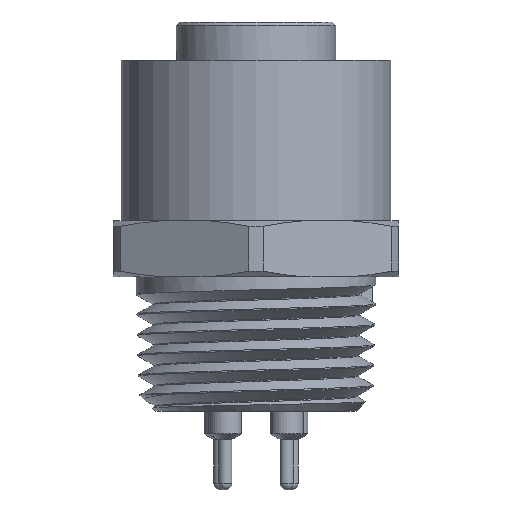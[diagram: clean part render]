
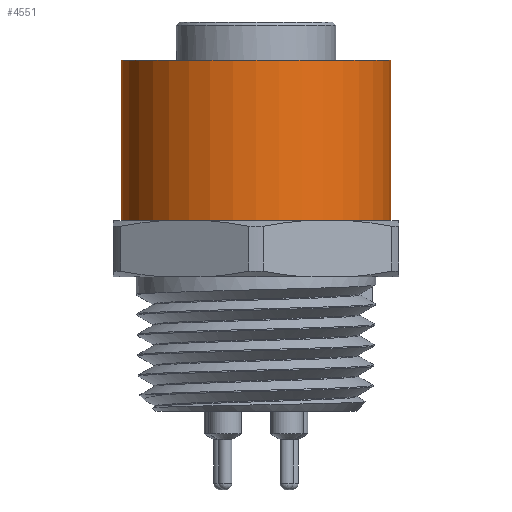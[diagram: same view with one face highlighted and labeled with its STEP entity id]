
A CAD part, front view. The second image highlights one B-rep face of the part: STEP entity #4551.
In plain terms, the highlighted cylindrical face has radius 12 mm (diameter 24 mm), a full revolution.
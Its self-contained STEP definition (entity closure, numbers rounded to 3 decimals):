
#203 = DIRECTION ( 'NONE',  ( 1., 0., 0. ) ) ;
#222 = CIRCLE ( 'NONE', #3931, 12. ) ;
#223 = VERTEX_POINT ( 'NONE', #582 ) ;
#479 = DIRECTION ( 'NONE',  ( 1., 0., 0. ) ) ;
#497 = AXIS2_PLACEMENT_3D ( 'NONE', #3894, #5729, #203 ) ;
#508 = CARTESIAN_POINT ( 'NONE',  ( 12., 0., -3.4 ) ) ;
#582 = CARTESIAN_POINT ( 'NONE',  ( 12., 0., -17.7 ) ) ;
#943 = CARTESIAN_POINT ( 'NONE',  ( 0., 0., -17.7 ) ) ;
#1418 = EDGE_LOOP ( 'NONE', ( #5931 ) ) ;
#2041 = FACE_OUTER_BOUND ( 'NONE', #4948, .T. ) ;
#2090 = AXIS2_PLACEMENT_3D ( 'NONE', #4587, #3693, #479 ) ;
#2564 = CIRCLE ( 'NONE', #497, 12. ) ;
#2858 = ORIENTED_EDGE ( 'NONE', *, *, #3364, .F. ) ;
#3057 = VERTEX_POINT ( 'NONE', #508 ) ;
#3364 = EDGE_CURVE ( 'NONE', #3057, #3057, #2564, .T. ) ;
#3693 = DIRECTION ( 'NONE',  ( 0., 0., 1. ) ) ;
#3837 = CYLINDRICAL_SURFACE ( 'NONE', #2090, 12. ) ;
#3894 = CARTESIAN_POINT ( 'NONE',  ( 0., 0., -3.4 ) ) ;
#3931 = AXIS2_PLACEMENT_3D ( 'NONE', #943, #5061, #5948 ) ;
#4230 = EDGE_CURVE ( 'NONE', #223, #223, #222, .T. ) ;
#4476 = FACE_OUTER_BOUND ( 'NONE', #1418, .T. ) ;
#4551 = ADVANCED_FACE ( 'NONE', ( #4476, #2041 ), #3837, .T. ) ;
#4587 = CARTESIAN_POINT ( 'NONE',  ( 0., 0., -3.4 ) ) ;
#4948 = EDGE_LOOP ( 'NONE', ( #2858 ) ) ;
#5061 = DIRECTION ( 'NONE',  ( 0., 0., 1. ) ) ;
#5729 = DIRECTION ( 'NONE',  ( 0., 0., 1. ) ) ;
#5931 = ORIENTED_EDGE ( 'NONE', *, *, #4230, .T. ) ;
#5948 = DIRECTION ( 'NONE',  ( 1., 0., 0. ) ) ;
